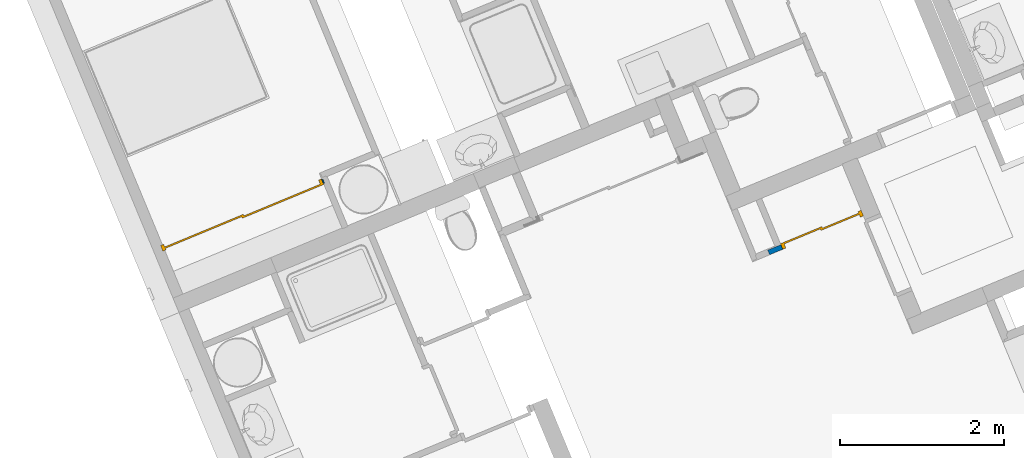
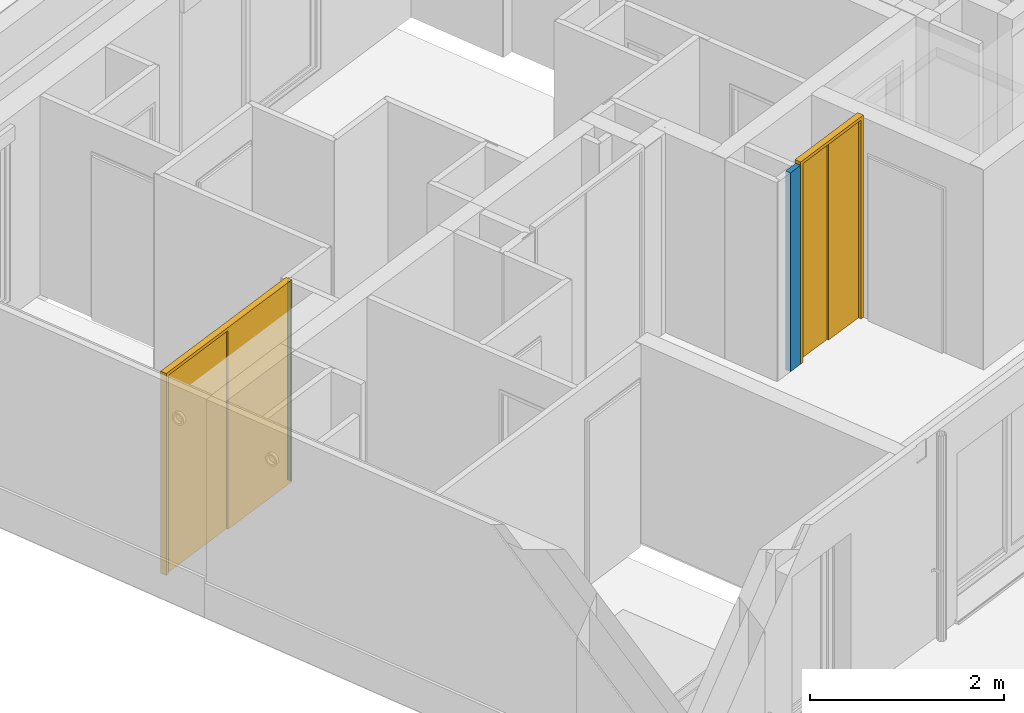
# One storey, part 1 of 119: 2 doors, 2 walls, 2 openings.
"""IFC2X3 building model written with IfcOpenShell, lengths in metres."""

from ifc_helpers import new_model, entity, si_unit, converted_unit, derived_unit, money_unit, direction, frame, origin_with_axes, place, context, subcontext, project, spatial, faceted_brep, source, transform, mapped, material, material_list, type_object, element, fill, save


model = new_model("IFC2X3")

# Units and contexts
model_context = context("Model", 3, precision=1e-05, world=origin_with_axes(), true_north=direction((0.0, 1.0)))
body_context = subcontext(model_context, "Body", "Model", "MODEL_VIEW")
ifc_project = project(units=[si_unit("LENGTHUNIT", "METRE"), si_unit("AREAUNIT", "SQUARE_METRE"), si_unit("VOLUMEUNIT", "CUBIC_METRE"), converted_unit("PLANEANGLEUNIT", "DEGREE", entity("IfcPlaneAngleMeasure", 0.0174532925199), si_unit("PLANEANGLEUNIT", "RADIAN"), dimensions=[0, 0, 0, 0, 0, 0, 0]), si_unit("SOLIDANGLEUNIT", "STERADIAN"), money_unit("EUR"), converted_unit("TIMEUNIT", "Year", entity("IfcTimeMeasure", 31556926.0), si_unit("TIMEUNIT", "SECOND"), dimensions=[0, 0, 1, 0, 0, 0, 0]), si_unit("MASSUNIT", "GRAM", prefix="KILO"), si_unit("THERMODYNAMICTEMPERATUREUNIT", "DEGREE_CELSIUS"), si_unit("LUMINOUSINTENSITYUNIT", "LUMEN"), si_unit("ENERGYUNIT", "JOULE", prefix="MEGA"), derived_unit("THERMALCONDUCTANCEUNIT", [(si_unit("POWERUNIT", "WATT"), 1), (si_unit("LENGTHUNIT", "METRE"), -1), (si_unit("THERMODYNAMICTEMPERATUREUNIT", "KELVIN"), -1)]), derived_unit("SPECIFICHEATCAPACITYUNIT", [(si_unit("ENERGYUNIT", "JOULE"), 1), (si_unit("MASSUNIT", "GRAM", prefix="KILO"), -1), (si_unit("THERMODYNAMICTEMPERATUREUNIT", "KELVIN"), -1)]), derived_unit("MASSDENSITYUNIT", [(si_unit("MASSUNIT", "GRAM", prefix="KILO"), 1), (si_unit("VOLUMEUNIT", "CUBIC_METRE"), -1)])], contexts=[model_context])

# Site, building, storey
site_placement = place(None, origin_with_axes())
site = spatial("IfcSite", under=ifc_project, at=site_placement, Name="Site", CompositionType="ELEMENT")
building_placement = place(site_placement, origin_with_axes())
building = spatial("IfcBuilding", under=site, at=building_placement, Name="Bâtiment", CompositionType="ELEMENT")
storey_placement = place(building_placement, origin_with_axes())
storey = spatial("IfcBuildingStorey", under=building, at=storey_placement, Name="Rez-de-chaussée", CompositionType="ELEMENT", Elevation=0.0)

# Wall, opening, door
ifc_material_1 = material(Name="Isolation - Laine de roche")
ifc_material_2 = material(Name="Finition int - Plaque de plâtre")
ifc_material_list = material_list([ifc_material_1, ifc_material_2])
wall_type = type_object("IfcWallType", Name="3 - Cloison 72mm Placostil 74", PredefinedType="USERDEFINED")
wall_1_placement = place(storey_placement, frame((-25.9133227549, -21.9281125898, 0.0), z_axis=(0.0, 0.0, 1.0), x_axis=(0.92370167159, 0.383112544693, 0.0)))
wall_1 = element("IfcWall", 1, at=wall_1_placement, inside=storey, type_object=wall_type, material=ifc_material_list, Name="Cloison Placostil 72/48", ObjectType="PARTITIONING", context=body_context, shape_type="Brep", body=[
    faceted_brep([(0.0739999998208, 0.013, 0.0), (0.0739999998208, 0.013, 2.5), (-0.100000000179, 0.013, 2.5), (-0.100000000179, 0.013, 0.0), (0.0739999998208, 0.061, 2.5), (0.0739999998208, 0.061, 0.0), (-0.100000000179, 0.061, 2.5), (-0.100000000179, 0.061, 0.0)], [[[0, 1, 2, 3]], [[4, 1, 0, 5]], [[1, 4, 6, 2]], [[2, 6, 7, 3]], [[5, 0, 3, 7]], [[4, 5, 7, 6]]]),
    faceted_brep([(0.0739999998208, 0.0, 0.0), (0.0739999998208, 0.0, 2.5), (-0.100000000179, 0.0, 2.5), (-0.100000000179, 0.0, 0.0), (0.0739999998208, 0.013, 2.5), (0.0739999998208, 0.013, 0.0), (-0.100000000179, 0.013, 2.5), (-0.100000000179, 0.013, 0.0)], [[[0, 1, 2, 3]], [[4, 1, 0, 5]], [[1, 4, 6, 2]], [[2, 6, 7, 3]], [[5, 0, 3, 7]], [[4, 5, 7, 6]]]),
])
opening_1_placement = place(wall_1_placement, frame((0.606000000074, 0.0, 0.0), z_axis=(0.0, 0.0, 1.0), x_axis=(1.0, 0.0, 0.0)))
opening_1 = element("IfcOpeningElement", 2, at=opening_1_placement, cuts=wall_1, Name="Por-002", context=body_context, shape_type="Brep", body=[
    faceted_brep([(-0.532000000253, 0.074, 0.0), (0.532000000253, 0.074, 0.0), (0.532000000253, -0.074, 0.0), (-0.532000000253, -0.074, 0.0), (-0.532000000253, 0.074, 2.54), (0.532000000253, 0.074, 2.54), (0.532000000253, -0.074, 2.54), (-0.532000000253, -0.074, 2.54)], [[[0, 1, 2, 3]], [[0, 4, 5, 1]], [[1, 5, 6, 2]], [[3, 2, 6, 7]], [[4, 0, 3, 7]], [[5, 4, 7, 6]]]),
])
door_style = type_object("IfcDoorStyle", Name="Porte int générique 2019", ConstructionType="NOTDEFINED", OperationType="USERDEFINED", ParameterTakesPrecedence=False, Sizeable=False)
shared_shape_1 = source(origin_with_axes(), body_context, "Body", "Brep", [
    faceted_brep([(-0.532000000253, 0.0, 0.0), (-0.532000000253, 0.0, 2.54), (0.532000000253, 0.0, 2.54), (0.532000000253, 0.0, 0.0), (0.492000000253, 0.0, 0.0), (0.492000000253, 0.0, 2.5), (-0.492000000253, 0.0, 2.5), (-0.492000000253, 0.0, 0.0), (-0.532000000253, -0.074, 0.0), (-0.532000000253, -0.074, 2.54), (0.532000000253, -0.074, 2.54), (0.532000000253, -0.074, 0.0), (0.492000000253, -0.074, 0.0), (0.492000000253, -0.074, 2.5), (-0.492000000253, -0.074, 2.5), (-0.492000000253, -0.074, 0.0)], [[[0, 1, 2, 3, 4, 5, 6, 7]], [[8, 9, 1, 0]], [[9, 10, 2, 1]], [[10, 11, 3, 2]], [[3, 11, 12, 4]], [[5, 4, 12, 13]], [[6, 5, 13, 14]], [[7, 6, 14, 15]], [[0, 7, 15, 8]], [[15, 14, 13, 12, 11, 10, 9, 8]]]),
    faceted_brep([(-0.492000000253, 0.0, 0.0), (0.015, 0.0, 0.0), (0.015, -0.02, 0.0), (-0.492000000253, -0.02, 0.0), (-0.492000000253, 0.0, 2.5), (0.015, 0.0, 2.5), (0.015, -0.02, 2.5), (-0.492000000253, -0.02, 2.5)], [[[0, 1, 2, 3]], [[0, 4, 5, 1]], [[1, 5, 6, 2]], [[3, 2, 6, 7]], [[4, 0, 3, 7]], [[5, 4, 7, 6]]]),
    faceted_brep([(-0.015, -0.02, 0.0), (0.492000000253, -0.02, 0.0), (0.492000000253, -0.04, 0.0), (-0.015, -0.04, 0.0), (-0.015, -0.02, 2.5), (0.492000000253, -0.02, 2.5), (0.492000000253, -0.04, 2.5), (-0.015, -0.04, 2.5)], [[[0, 1, 2, 3]], [[0, 4, 5, 1]], [[1, 5, 6, 2]], [[3, 2, 6, 7]], [[4, 0, 3, 7]], [[5, 4, 7, 6]]]),
])
door_1_placement = place(opening_1_placement, frame((-0.492000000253, 0.0, 0.0), z_axis=(0.0, 0.0, 1.0), x_axis=(1.0, 0.0, 0.0)))
door_1 = element("IfcDoor", 3, at=door_1_placement, inside=storey, type_object=door_style, Name="Por-002", ObjectType="DOOR", OverallHeight=2.5, OverallWidth=0.984, context=body_context, shape_type="MappedRepresentation", body=[
    mapped(shared_shape_1, transform((0.492000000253, 0.074, 0.0))),
])
fill(opening_1, door_1)

wall_2_placement = place(storey_placement, frame((-31.467284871, -21.0401555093, 0.0), z_axis=(0.0, 0.0, 1.0), x_axis=(-0.923701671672, -0.383112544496, 0.0)))
wall_2 = element("IfcWall", 4, at=wall_2_placement, inside=storey, type_object=wall_type, material=ifc_material_1, Name="Cloison Placostil 72/48", ObjectType="PARTITIONING", context=body_context, shape_type="Brep", body=[
    faceted_brep([(0.0, 0.013, 2.5), (0.0, 0.061, 2.5), (-0.013000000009, 0.061, 2.5), (-0.0130000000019, 0.013, 2.5), (0.0, 0.061, 0.0), (0.0, 0.013, 0.0), (-0.013000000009, 0.061, 0.0), (-0.0130000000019, 0.013, 0.0)], [[[0, 1, 2, 3]], [[4, 1, 0, 5]], [[1, 4, 6, 2]], [[6, 7, 3, 2]], [[5, 0, 3, 7]], [[4, 5, 7, 6]]]),
])
opening_2_placement = place(wall_2_placement, frame((1.06249999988, 0.0, 0.0), z_axis=(0.0, 0.0, 1.0), x_axis=(1.0, 0.0, 0.0)))
opening_2 = element("IfcOpeningElement", 5, at=opening_2_placement, cuts=wall_2, Name="Por-002", context=body_context, shape_type="Brep", body=[
    faceted_brep([(-1.06249999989, 0.074, 0.0), (1.06249999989, 0.074, 0.0), (1.06249999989, -0.074, 0.0), (-1.06249999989, -0.074, 0.0), (-1.06249999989, 0.074, 2.54), (1.06249999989, 0.074, 2.54), (1.06249999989, -0.074, 2.54), (-1.06249999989, -0.074, 2.54)], [[[0, 1, 2, 3]], [[0, 4, 5, 1]], [[1, 5, 6, 2]], [[3, 2, 6, 7]], [[4, 0, 3, 7]], [[5, 4, 7, 6]]]),
])
shared_shape_2 = source(origin_with_axes(), body_context, "Body", "Brep", [
    faceted_brep([(-1.06249999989, 0.0, 0.0), (-1.06249999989, 0.0, 2.54), (1.06249999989, 0.0, 2.54), (1.06249999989, 0.0, 0.0), (1.02249999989, 0.0, 0.0), (1.02249999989, 0.0, 2.5), (-1.02249999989, 0.0, 2.5), (-1.02249999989, 0.0, 0.0), (-1.06249999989, -0.074, 0.0), (-1.06249999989, -0.074, 2.54), (1.06249999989, -0.074, 2.54), (1.06249999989, -0.074, 0.0), (1.02249999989, -0.074, 0.0), (1.02249999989, -0.074, 2.5), (-1.02249999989, -0.074, 2.5), (-1.02249999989, -0.074, 0.0)], [[[0, 1, 2, 3, 4, 5, 6, 7]], [[8, 9, 1, 0]], [[9, 10, 2, 1]], [[10, 11, 3, 2]], [[3, 11, 12, 4]], [[5, 4, 12, 13]], [[6, 5, 13, 14]], [[7, 6, 14, 15]], [[0, 7, 15, 8]], [[15, 14, 13, 12, 11, 10, 9, 8]]]),
    faceted_brep([(-1.02249999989, 0.0, 0.0), (0.015, 0.0, 0.0), (0.015, -0.02, 0.0), (-1.02249999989, -0.02, 0.0), (-1.02249999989, 0.0, 2.5), (0.015, 0.0, 2.5), (0.015, -0.02, 2.5), (-1.02249999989, -0.02, 2.5)], [[[0, 1, 2, 3]], [[0, 4, 5, 1]], [[1, 5, 6, 2]], [[3, 2, 6, 7]], [[4, 0, 3, 7]], [[5, 4, 7, 6]]]),
    faceted_brep([(-0.015, -0.02, 0.0), (1.02249999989, -0.02, 0.0), (1.02249999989, -0.04, 0.0), (-0.015, -0.04, 0.0), (-0.015, -0.02, 2.5), (1.02249999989, -0.02, 2.5), (1.02249999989, -0.04, 2.5), (-0.015, -0.04, 2.5)], [[[0, 1, 2, 3]], [[0, 4, 5, 1]], [[1, 5, 6, 2]], [[3, 2, 6, 7]], [[4, 0, 3, 7]], [[5, 4, 7, 6]]]),
])
door_2_placement = place(opening_2_placement, frame((-1.02249999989, 0.0, 0.0), z_axis=(0.0, 0.0, 1.0), x_axis=(1.0, 0.0, 0.0)))
door_2 = element("IfcDoor", 6, at=door_2_placement, inside=storey, type_object=door_style, Name="Por-002", ObjectType="DOOR", OverallHeight=2.5, OverallWidth=2.045, context=body_context, shape_type="MappedRepresentation", body=[
    mapped(shared_shape_2, transform((1.02249999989, 0.074, 0.0))),
])
fill(opening_2, door_2)

save(model, "model.ifc")
